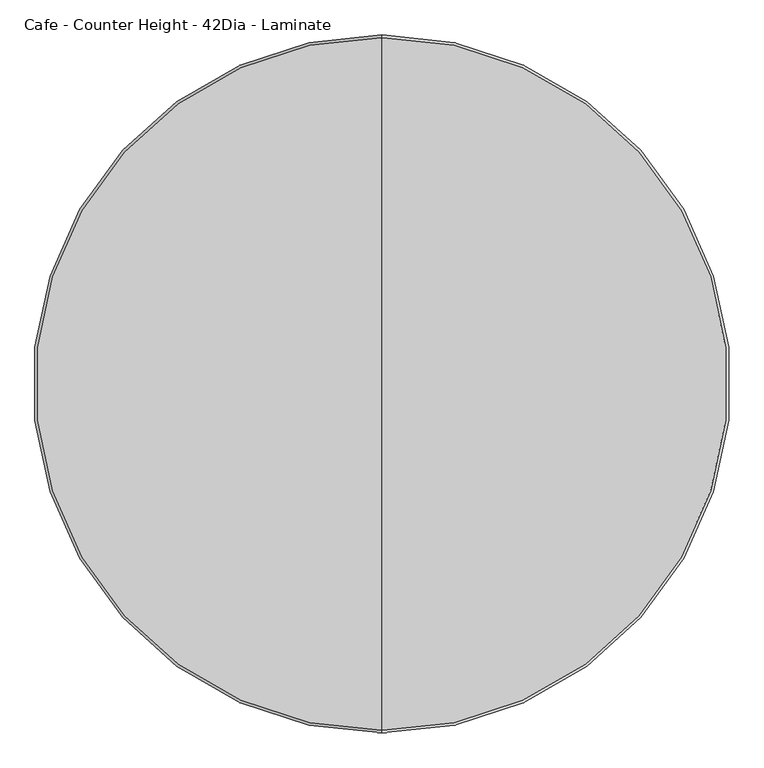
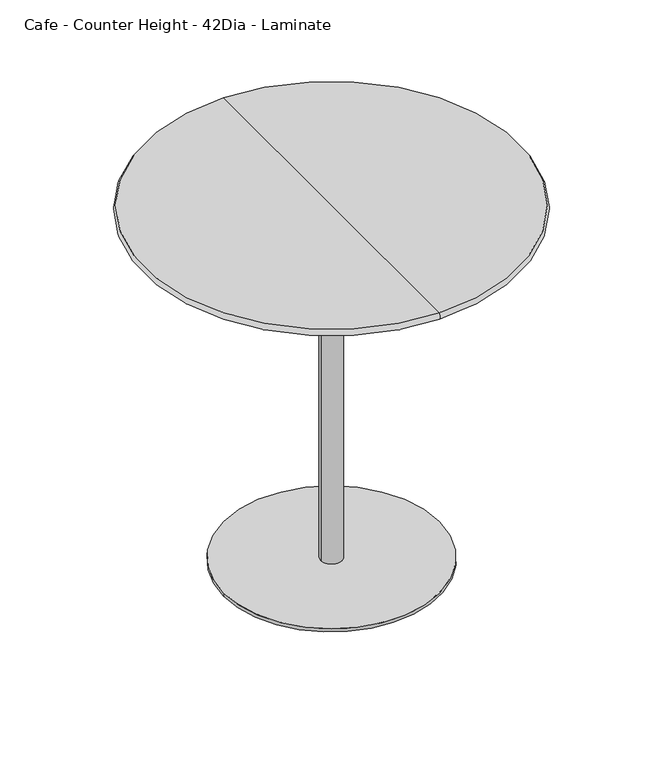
"""IFC4 building model written with IfcOpenShell, lengths in millimetres: furniture geometry, Steelcase Coalesse - Enea - Table - Single Base : Cafe - Counter Height - 42Dia - Laminate."""

from ifc_helpers import new_model, si_unit, point, frame, frame_2d, origin, origin_with_axes, place, context, project, spatial, circle_curve, ellipse_curve, trimmed, segment, composite_curve, outline, extrude, source, transform, mapped, element, save
from ifc_brep_helpers import plane_surface, revolved_surface, advanced_brep


def cafe_counter_height_42dia_laminate_a722a0c0(model_context):
    return source(origin(), model_context, "Body", "SolidModel", [
        extrude(outline(composite_curve([segment(trimmed(circle_curve(frame_2d((537.718, -284.0746893)), 25.4), [point((512.318, -284.0746893))], [point((563.118, -284.0746893))], False, "CARTESIAN"), True, "CONTINUOUS"), segment(trimmed(circle_curve(frame_2d((537.718, -284.0746893)), 25.4), [point((563.118, -284.0746893))], [point((512.318, -284.0746893))], False, "CARTESIAN"), True, "CONTINUOUS")], self_intersect=False)), origin_with_axes(), (0.0, 0.0, 1.0), 6.35),
        extrude(outline(composite_curve([segment(trimmed(circle_curve(frame_2d((791.3613107, -537.3772238)), 25.4), [point((765.9613107, -537.3772238))], [point((816.7613107, -537.3772238))], False, "CARTESIAN"), True, "CONTINUOUS"), segment(trimmed(circle_curve(frame_2d((791.3613107, -537.3772238)), 25.4), [point((816.7613107, -537.3772238))], [point((765.9613107, -537.3772238))], False, "CARTESIAN"), True, "CONTINUOUS")], self_intersect=False)), origin_with_axes(), (0.0, 0.0, 1.0), 6.35),
        extrude(outline(composite_curve([segment(trimmed(circle_curve(frame_2d((284.0746893, -537.3772238)), 25.4), [point((258.6746893, -537.3772238))], [point((309.4746893, -537.3772238))], False, "CARTESIAN"), True, "CONTINUOUS"), segment(trimmed(circle_curve(frame_2d((284.0746893, -537.3772238)), 25.4), [point((309.4746893, -537.3772238))], [point((258.6746893, -537.3772238))], False, "CARTESIAN"), True, "CONTINUOUS")], self_intersect=False)), origin_with_axes(), (0.0, 0.0, 1.0), 6.35),
        extrude(outline(composite_curve([segment(trimmed(circle_curve(frame_2d((537.718, -790.6797584)), 25.4), [point((512.318, -790.6797584))], [point((563.118, -790.6797584))], False, "CARTESIAN"), True, "CONTINUOUS"), segment(trimmed(circle_curve(frame_2d((537.718, -790.6797584)), 25.4), [point((563.118, -790.6797584))], [point((512.318, -790.6797584))], False, "CARTESIAN"), True, "CONTINUOUS")], self_intersect=False)), origin_with_axes(), (0.0, 0.0, 1.0), 6.35),
        advanced_brep(
        [(537.718, -1066.8075871, 1066.8), (537.718, -8.6284129, 1066.8), (537.718, -537.718, 1066.8), (537.718, -1066.8075871, 1047.75), (537.718, -8.6284129, 1047.75), (537.718, -537.718, 1047.75)],
        [
            (0, 1, circle_curve(frame((537.718, -537.718, 1066.8), z_axis=(0.0, 0.0, 1.0), x_axis=(0.0, 1.0, 0.0)), 529.0895871)),
            (1, 2),
            (2, 0),
            (1, 0, circle_curve(frame((537.718, -537.718, 1066.8), z_axis=(0.0, 0.0, 1.0), x_axis=(0.0, 1.0, 0.0)), 529.0895871)),
            (3, 4, circle_curve(frame((537.718, -537.718, 1047.75), z_axis=(0.0, 0.0, 1.0), x_axis=(0.0, 1.0, 0.0)), 529.0895871)),
            (4, 1, circle_curve(frame((537.718, -16.9968446, 1057.275), z_axis=(1.0, 0.0, 0.0), x_axis=(0.0, -1.0, 0.0)), 12.6789697)),
            (0, 3, circle_curve(frame((537.718, -1058.4391554, 1057.275), z_axis=(1.0, 0.0, 0.0), x_axis=(0.0, 1.0, 0.0)), 12.6789697)),
            (4, 3, circle_curve(frame((537.718, -537.718, 1047.75), z_axis=(0.0, 0.0, 1.0), x_axis=(0.0, 1.0, 0.0)), 529.0895871)),
            (5, 4),
            (3, 5),
        ],
        [
            plane_surface(frame((537.718, -537.718, 1066.8), z_axis=(0.0, 0.0, 1.0), x_axis=(0.0, 1.0, 0.0))),
            revolved_surface(trimmed(ellipse_curve(frame((537.718, -16.9968446, 1057.275), z_axis=(-1.0, 0.0, 0.0), x_axis=(0.0, -1.0, 0.0)), 12.6789697, 12.6789697), [point((537.718, -8.6284129, 1066.8))], [point((537.718, -8.6284129, 1047.75))], True, "CARTESIAN"), (537.718, -537.718, 1108.3678651), (0.0, 0.0, -1.0)),
            plane_surface(frame((537.718, -537.718, 1047.75), z_axis=(0.0, 0.0, -1.0), x_axis=(0.0, 1.0, 0.0))),
        ],
        [
            (0, [[1, 2, 3]]),
            (0, [[4, -3, -2]]),
            (1, [[5, 6, -1, 7]]),
            (1, [[8, -7, -4, -6]]),
            (2, [[9, -5, 10]]),
            (2, [[-10, -8, -9]]),
        ],
    ),
        extrude(outline(composite_curve([segment(trimmed(circle_curve(frame_2d((537.718, -537.718)), 304.8), [point((842.518, -537.718))], [point((232.918, -537.718))], False, "CARTESIAN"), True, "CONTINUOUS"), segment(trimmed(circle_curve(frame_2d((537.718, -537.718)), 304.8), [point((232.918, -537.718))], [point((842.518, -537.718))], False, "CARTESIAN"), True, "CONTINUOUS")], self_intersect=False)), frame((0.0, 0.0, 6.35), z_axis=(0.0, 0.0, 1.0), x_axis=(1.0, 0.0, 0.0)), (0.0, 0.0, 1.0), 9.525),
        extrude(outline(composite_curve([segment(trimmed(circle_curve(frame_2d((537.7182907, -537.7179273)), 30.0214725), [point((567.7397632, -537.7179273))], [point((507.6968182, -537.7179273))], False, "CARTESIAN"), True, "CONTINUOUS"), segment(trimmed(circle_curve(frame_2d((537.7182907, -537.7179273)), 30.0214725), [point((507.6968182, -537.7179273))], [point((567.7397632, -537.7179273))], False, "CARTESIAN"), True, "CONTINUOUS")], self_intersect=False)), frame((0.0, 0.0, 15.875), z_axis=(0.0, 0.0, 1.0), x_axis=(1.0, 0.0, 0.0)), (0.0, 0.0, 1.0), 1031.875),
    ])


if __name__ == "__main__":
    model = new_model("IFC4")
    model_context = context("Model", 3, world=origin())
    ifc_project = project(units=[si_unit("LENGTHUNIT", "METRE", prefix="MILLI")], contexts=[model_context])
    site = spatial("IfcSite", under=ifc_project)
    building = spatial("IfcBuilding", under=site)
    placement = place(None, origin())
    cafe_counter_height_42dia_laminate_shape = cafe_counter_height_42dia_laminate_a722a0c0(model_context)
    element("IfcFurniture", 1, ObjectType="Steelcase Coalesse - Enea - Table - Single Base : Cafe - Counter Height - 42Dia - Laminate", at=placement, inside=building, context=model_context, shape_type="MappedRepresentation", body=[
        mapped(cafe_counter_height_42dia_laminate_shape, transform((0.0, 0.0, 0.0), x_axis=(1.0, 0.0, 0.0), y_axis=(0.0, 1.0, 0.0), z_axis=(0.0, 0.0, 1.0))),
    ])
    save(model, "model.ifc")
